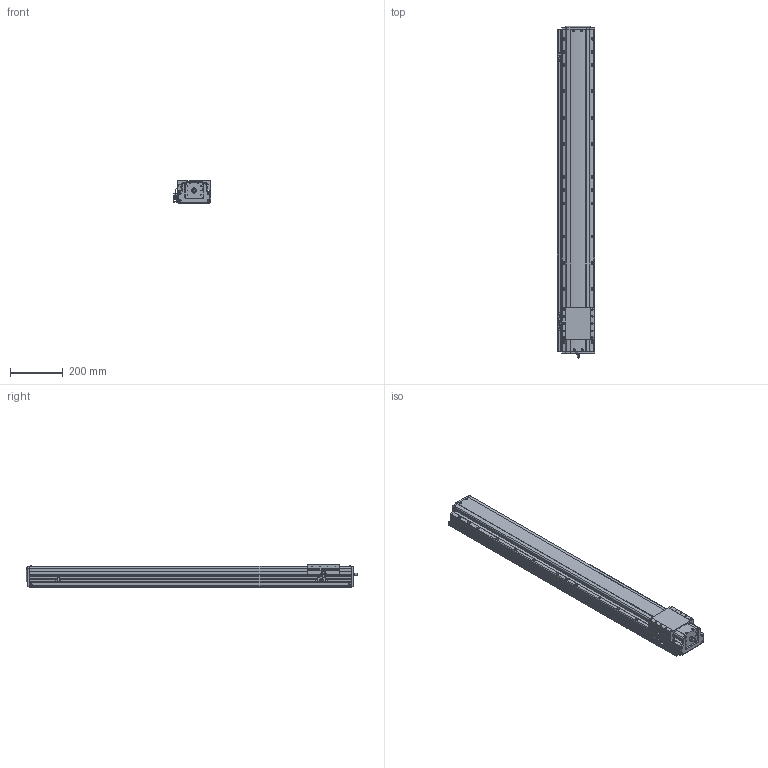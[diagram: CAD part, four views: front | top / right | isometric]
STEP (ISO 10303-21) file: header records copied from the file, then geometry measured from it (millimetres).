
FILE_DESCRIPTION(('STEP AP214'),'1');
FILE_NAME('Z:/Web/3D/PSA125/STP/PSA125-1000 (3D)/PSA125ㅁㅁ-1000+3SL.stp','2014-06-23T05:07:55',(' '),(' '),'Spatial InterOp 3D',' ',' ');
FILE_SCHEMA(('automotive_design'));
Length unit declared in the file: millimetre
Products named in the file (36): 스크루 : Round - M4.0 x 10.0; RRCV-PA120; SLIDE; BASE; FRCV-PA120-1(기준 뿔 제거); RR1500; 스크루 : Round - M4.0 x 6.0; 너트 : Square - M10.0 x 220.7419; EE-SX674; SBK-SX674-352; 스크루 : Round - M3.0 x 6.0; M3.0 x 6.0; SRL-16x17-380L; SGD-PA95; 스크루 : Round - M3.0 x 8.0
Bounding box: 141 x 1258.1 x 86 mm (x, y, z)
Volume: 10415137.9 mm3; surface area: 934978.1 mm2
Topology: 36 solids, 36 shells, 2447 faces, 6557 edges, 4202 vertices
Faces by surface type: plane 1375, cylinder 720, cone 244, sphere 52, bspline 31, torus 25
Entity records: 98049 total; most frequent: CARTESIAN_POINT 16034, DIRECTION 13031, ORIENTED_EDGE 12830, EDGE_CURVE 6415, AXIS2_PLACEMENT_3D 4356, LINE 4319, VECTOR 4319, VERTEX_POINT 4202
